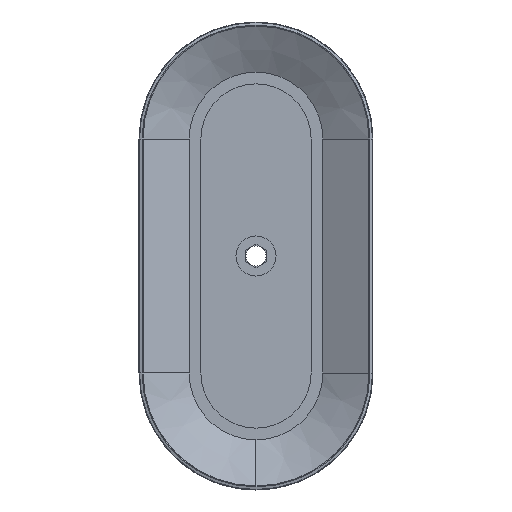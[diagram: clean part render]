
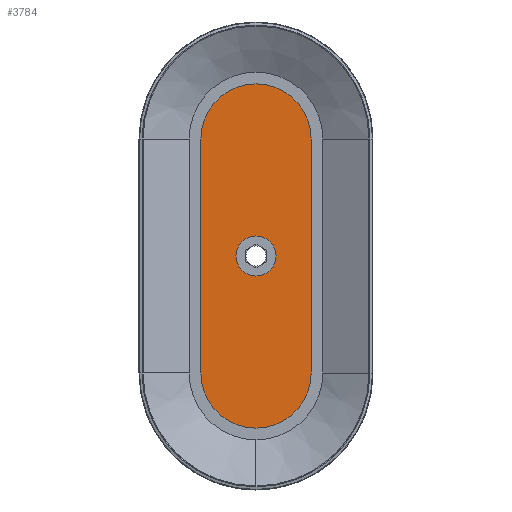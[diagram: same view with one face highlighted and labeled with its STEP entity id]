
A CAD part, front view. The second image highlights one B-rep face of the part: STEP entity #3784.
In plain terms, the highlighted planar face has unit normal (0, -1, 0).
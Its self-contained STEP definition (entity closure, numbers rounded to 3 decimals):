
#785 = CIRCLE ( 'NONE', #6488, 16.5 ) ;
#854 = DIRECTION ( 'NONE',  ( 0., 0., 1. ) ) ;
#1238 = DIRECTION ( 'NONE',  ( 0., 0., 1. ) ) ;
#1316 = DIRECTION ( 'NONE',  ( 0., 1., 0. ) ) ;
#1517 = DIRECTION ( 'NONE',  ( 0., 0., -1. ) ) ;
#1533 = CARTESIAN_POINT ( 'NONE',  ( 16.5, 16., 35. ) ) ;
#1834 = CIRCLE ( 'NONE', #12411, 16.5 ) ;
#1916 = AXIS2_PLACEMENT_3D ( 'NONE', #5436, #1316, #5503 ) ;
#1961 = DIRECTION ( 'NONE',  ( 1., 0., 0. ) ) ;
#1972 = CARTESIAN_POINT ( 'NONE',  ( 0., 16., 0. ) ) ;
#2120 = ORIENTED_EDGE ( 'NONE', *, *, #3103, .F. ) ;
#2201 = CARTESIAN_POINT ( 'NONE',  ( -16.5, 16., 35. ) ) ;
#2266 = VERTEX_POINT ( 'NONE', #6941 ) ;
#2322 = EDGE_LOOP ( 'NONE', ( #12888, #2120, #7826, #11678, #11053 ) ) ;
#2549 = DIRECTION ( 'NONE',  ( 0., 1., 0. ) ) ;
#2675 = CARTESIAN_POINT ( 'NONE',  ( 16.5, 16., 35. ) ) ;
#3096 = VERTEX_POINT ( 'NONE', #4598 ) ;
#3103 = EDGE_CURVE ( 'NONE', #3613, #11321, #13082, .T. ) ;
#3377 = VECTOR ( 'NONE', #1238, 1000. ) ;
#3613 = VERTEX_POINT ( 'NONE', #1533 ) ;
#3762 = DIRECTION ( 'NONE',  ( 0., 1., 0. ) ) ;
#3784 = ADVANCED_FACE ( 'NONE', ( #5094, #7239 ), #11226, .F. ) ;
#4449 = LINE ( 'NONE', #2201, #3377 ) ;
#4598 = CARTESIAN_POINT ( 'NONE',  ( -16.5, 16., -35. ) ) ;
#4602 = CARTESIAN_POINT ( 'NONE',  ( 0., 16., 35. ) ) ;
#4664 = CARTESIAN_POINT ( 'NONE',  ( 0., 16., -35. ) ) ;
#4813 = ORIENTED_EDGE ( 'NONE', *, *, #8241, .T. ) ;
#4942 = AXIS2_PLACEMENT_3D ( 'NONE', #1972, #10232, #9259 ) ;
#5094 = FACE_OUTER_BOUND ( 'NONE', #2322, .T. ) ;
#5134 = CARTESIAN_POINT ( 'NONE',  ( 16.5, 16., -35. ) ) ;
#5436 = CARTESIAN_POINT ( 'NONE',  ( -0.5, 16., 35. ) ) ;
#5503 = DIRECTION ( 'NONE',  ( 0., 0., 1. ) ) ;
#5564 = CARTESIAN_POINT ( 'NONE',  ( -16.5, 16., 35. ) ) ;
#6067 = CARTESIAN_POINT ( 'NONE',  ( -6., 16., 0. ) ) ;
#6206 = CIRCLE ( 'NONE', #12601, 6. ) ;
#6488 = AXIS2_PLACEMENT_3D ( 'NONE', #4664, #3762, #9149 ) ;
#6941 = CARTESIAN_POINT ( 'NONE',  ( 0., 16., 51.5 ) ) ;
#6966 = CARTESIAN_POINT ( 'NONE',  ( 0., 16., 35. ) ) ;
#7181 = DIRECTION ( 'NONE',  ( 0., 1., 0. ) ) ;
#7239 = FACE_BOUND ( 'NONE', #7937, .T. ) ;
#7642 = VERTEX_POINT ( 'NONE', #5564 ) ;
#7826 = ORIENTED_EDGE ( 'NONE', *, *, #9162, .F. ) ;
#7937 = EDGE_LOOP ( 'NONE', ( #13331, #4813 ) ) ;
#8211 = VERTEX_POINT ( 'NONE', #8214 ) ;
#8214 = CARTESIAN_POINT ( 'NONE',  ( 6., 16., 0. ) ) ;
#8241 = EDGE_CURVE ( 'NONE', #10743, #8211, #6206, .T. ) ;
#8277 = CARTESIAN_POINT ( 'NONE',  ( 0., 16., 0. ) ) ;
#8647 = AXIS2_PLACEMENT_3D ( 'NONE', #4602, #2549, #8956 ) ;
#8956 = DIRECTION ( 'NONE',  ( 0., 0., 1. ) ) ;
#9149 = DIRECTION ( 'NONE',  ( 0., 0., 1. ) ) ;
#9162 = EDGE_CURVE ( 'NONE', #2266, #3613, #1834, .T. ) ;
#9259 = DIRECTION ( 'NONE',  ( 1., 0., 0. ) ) ;
#9828 = VECTOR ( 'NONE', #1517, 1000. ) ;
#10232 = DIRECTION ( 'NONE',  ( 0., 1., 0. ) ) ;
#10644 = EDGE_CURVE ( 'NONE', #7642, #2266, #12424, .T. ) ;
#10743 = VERTEX_POINT ( 'NONE', #6067 ) ;
#11053 = ORIENTED_EDGE ( 'NONE', *, *, #11851, .F. ) ;
#11226 = PLANE ( 'NONE',  #1916 ) ;
#11321 = VERTEX_POINT ( 'NONE', #5134 ) ;
#11678 = ORIENTED_EDGE ( 'NONE', *, *, #10644, .F. ) ;
#11851 = EDGE_CURVE ( 'NONE', #3096, #7642, #4449, .T. ) ;
#12338 = EDGE_CURVE ( 'NONE', #8211, #10743, #12676, .T. ) ;
#12354 = DIRECTION ( 'NONE',  ( 0., 1., 0. ) ) ;
#12411 = AXIS2_PLACEMENT_3D ( 'NONE', #6966, #12354, #854 ) ;
#12424 = CIRCLE ( 'NONE', #8647, 16.5 ) ;
#12497 = EDGE_CURVE ( 'NONE', #11321, #3096, #785, .T. ) ;
#12601 = AXIS2_PLACEMENT_3D ( 'NONE', #8277, #7181, #1961 ) ;
#12676 = CIRCLE ( 'NONE', #4942, 6. ) ;
#12888 = ORIENTED_EDGE ( 'NONE', *, *, #12497, .F. ) ;
#13082 = LINE ( 'NONE', #2675, #9828 ) ;
#13331 = ORIENTED_EDGE ( 'NONE', *, *, #12338, .T. ) ;
